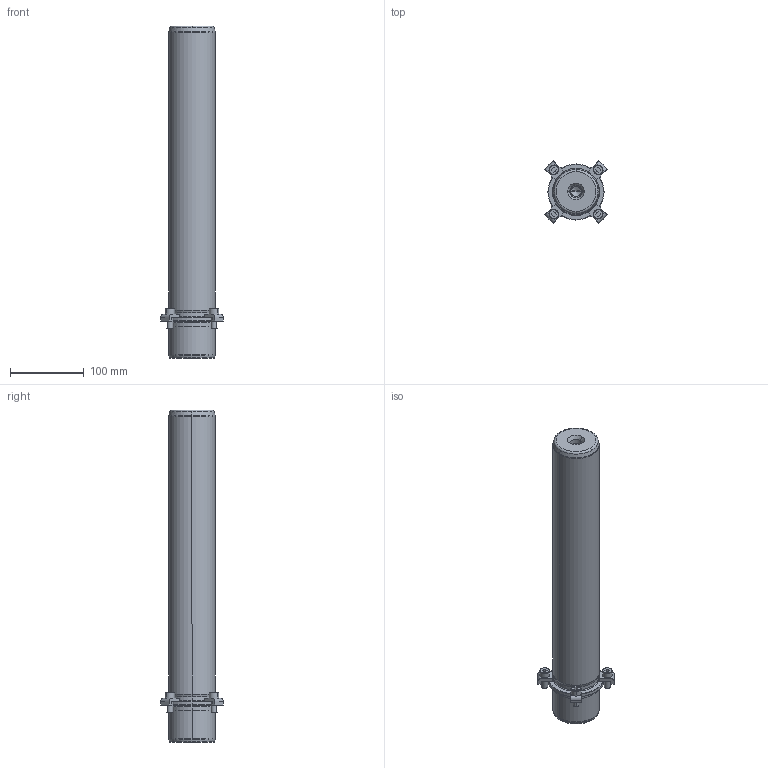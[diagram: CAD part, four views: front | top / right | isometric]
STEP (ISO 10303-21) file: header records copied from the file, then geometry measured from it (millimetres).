
FILE_DESCRIPTION((''),'2;1');
FILE_NAME('P21_063_400.stp','2008-12-23T09:24:10',(''),(''),'Mechanical Desktop 2009','Mechanical Desktop 2009',', , ');
FILE_SCHEMA(('CONFIG_CONTROL_DESIGN'));
Length unit declared in the file: millimetre
Products named in the file (2): Product; blmdl1
Assembly tree (1 placements, depth 2):
  Product
    blmdl1
Bounding box: 84.5 x 84.5 x 450 mm (x, y, z)
Volume: 1402142.2 mm3; surface area: 110691.5 mm2
Topology: 9 solids, 9 shells, 195 faces, 477 edges, 309 vertices
Faces by surface type: plane 77, cylinder 52, cone 34, torus 16, bspline 16
Entity records: 6547 total; most frequent: CARTESIAN_POINT 1683, DIRECTION 1078, ORIENTED_EDGE 946, EDGE_CURVE 473, AXIS2_PLACEMENT_3D 424, VERTEX_POINT 309, CIRCLE 243, VECTOR 230
